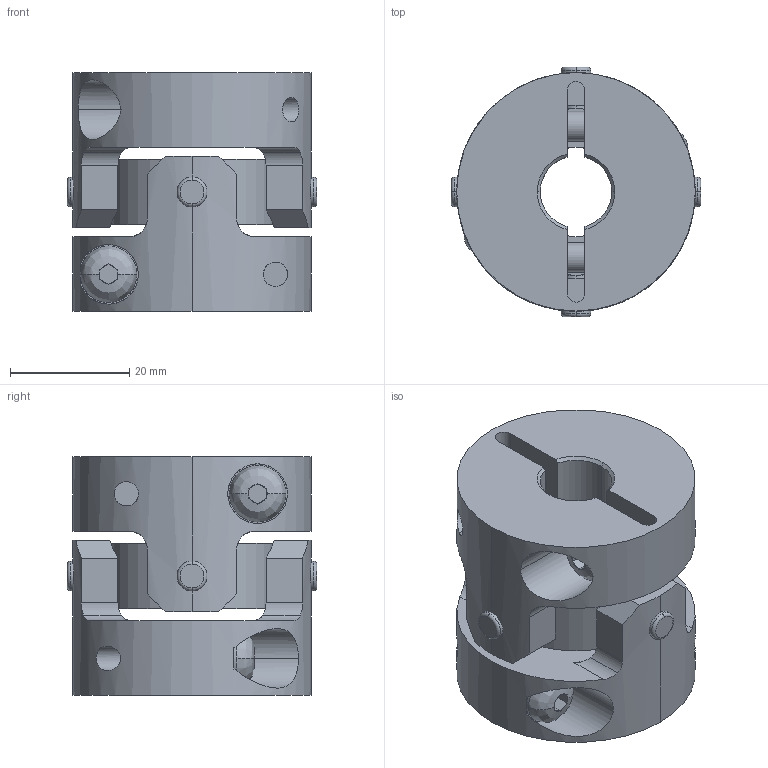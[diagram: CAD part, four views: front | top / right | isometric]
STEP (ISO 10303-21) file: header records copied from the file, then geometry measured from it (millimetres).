
FILE_DESCRIPTION((''),'2;1');
FILE_NAME('UA-40C-12×19.stp','2013-05-22T09:01:11',(''),(''),'AutoCAD STEP 2000i','AutoCAD 2000i',', , ');
FILE_SCHEMA(('CONFIG_CONTROL_DESIGN'));
Length unit declared in the file: millimetre
Products named in the file (7): UA-40C-8×18; 忣兜1; UA-4002-D18; BTN-M5; UA-4002-D08-1; UA-4002-D08; UA40-SEN
Assembly tree (8 placements, depth 3):
  UA-40C-8×18
    忣兜1
    UA-4002-D18
      BTN-M5
    UA-4002-D08-1
      BTN-M5
    UA-4002-D08
      BTN-M5
    UA40-SEN
Bounding box: 41.81 x 41.81 x 40 mm (x, y, z)
Volume: 32498.2 mm3; surface area: 15132.7 mm2
Topology: 1 solids, 1 shells, 252 faces, 654 edges, 412 vertices
Faces by surface type: plane 124, cylinder 96, cone 16, bspline 8, torus 8
Entity records: 9705 total; most frequent: CARTESIAN_POINT 3363, DIRECTION 1308, ORIENTED_EDGE 1308, EDGE_CURVE 654, AXIS2_PLACEMENT_3D 505, VERTEX_POINT 412, VECTOR 298, LINE 298
